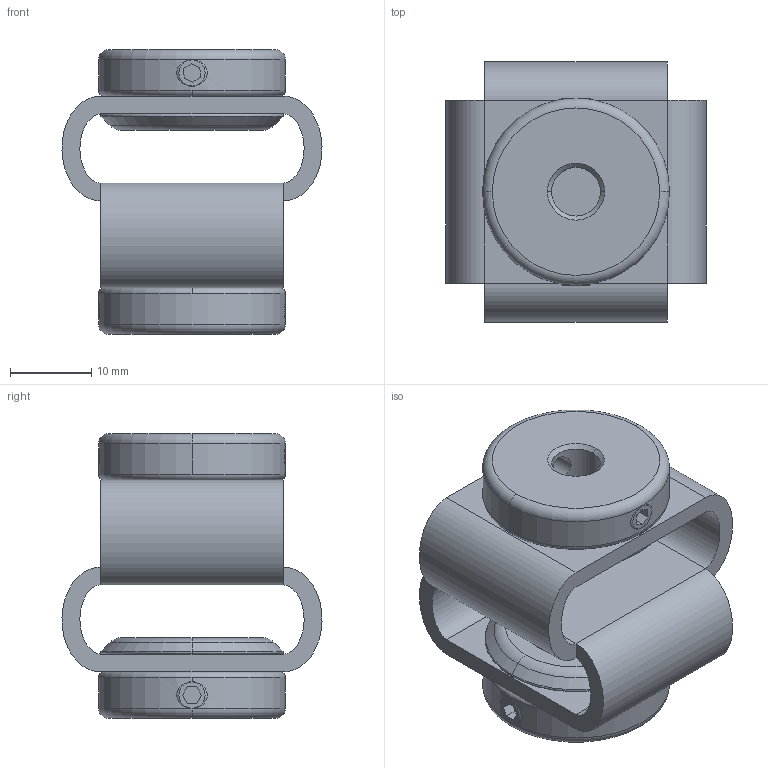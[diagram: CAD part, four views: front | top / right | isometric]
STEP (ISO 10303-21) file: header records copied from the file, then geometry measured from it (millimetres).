
FILE_DESCRIPTION (( 'STEP AP203' ), '1' );
FILE_NAME ('SFC-38-6X12_203.STEP', '2013-06-02T09:35:40', ( 'Z77' ), ( '' ), 'SwSTEP 2.0', 'SolidWorks 2012', '' );
FILE_SCHEMA (( 'CONFIG_CONTROL_DESIGN' ));
Length unit declared in the file: millimetre
Products named in the file (1): SFC-38-6X12_203
Bounding box: 32 x 32 x 35 mm (x, y, z)
Volume: 10669.4 mm3; surface area: 7575.1 mm2
Topology: 1 solids, 1 shells, 134 faces, 328 edges, 194 vertices
Faces by surface type: plane 46, cone 36, cylinder 28, torus 16, bspline 8
Entity records: 4916 total; most frequent: CARTESIAN_POINT 1764, ORIENTED_EDGE 640, DIRECTION 636, EDGE_CURVE 320, AXIS2_PLACEMENT_3D 239, VERTEX_POINT 194, VECTOR 158, LINE 158
